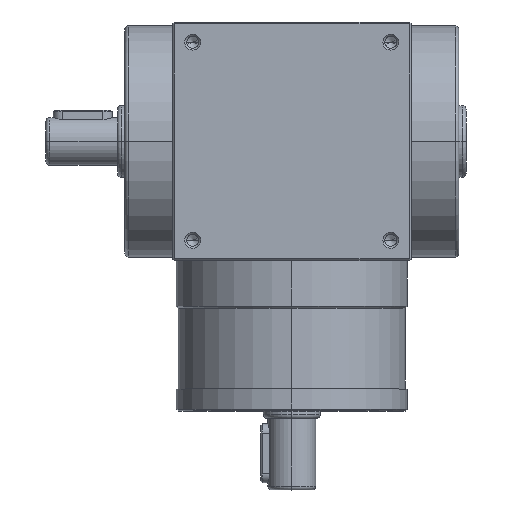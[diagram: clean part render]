
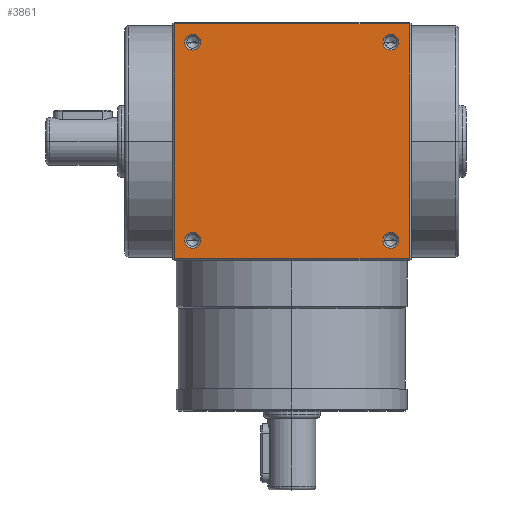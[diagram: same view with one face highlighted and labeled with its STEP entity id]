
A CAD part, top view. The second image highlights one B-rep face of the part: STEP entity #3861.
In plain terms, the highlighted planar face has unit normal (0, 0, 1).
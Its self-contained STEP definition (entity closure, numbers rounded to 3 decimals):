
#70 = EDGE_CURVE ( 'NONE', #9205, #8927, #5517, .T. ) ;
#170 = VERTEX_POINT ( 'NONE', #3588 ) ;
#243 = VERTEX_POINT ( 'NONE', #2750 ) ;
#320 = DIRECTION ( 'NONE',  ( 1., 0., 0. ) ) ;
#416 = EDGE_CURVE ( 'NONE', #1920, #170, #5765, .T. ) ;
#423 = VERTEX_POINT ( 'NONE', #5605 ) ;
#472 = CARTESIAN_POINT ( 'NONE',  ( -24.85, -27., 32.5 ) ) ;
#511 = EDGE_CURVE ( 'NONE', #8994, #7284, #6360, .T. ) ;
#524 = AXIS2_PLACEMENT_3D ( 'NONE', #7259, #5695, #2656 ) ;
#547 = VECTOR ( 'NONE', #3242, 1000. ) ;
#557 = ORIENTED_EDGE ( 'NONE', *, *, #6041, .T. ) ;
#592 = EDGE_CURVE ( 'NONE', #243, #1901, #6610, .T. ) ;
#648 = CIRCLE ( 'NONE', #4540, 2.15 ) ;
#657 = DIRECTION ( 'NONE',  ( -1., 0., 0. ) ) ;
#690 = CARTESIAN_POINT ( 'NONE',  ( 29.15, -27., 32.5 ) ) ;
#732 = DIRECTION ( 'NONE',  ( -1., 0., 0. ) ) ;
#1031 = CARTESIAN_POINT ( 'NONE',  ( 27., -27., 32.5 ) ) ;
#1289 = LINE ( 'NONE', #7314, #5525 ) ;
#1372 = CARTESIAN_POINT ( 'NONE',  ( 32., 0., 32.5 ) ) ;
#1592 = CARTESIAN_POINT ( 'NONE',  ( 27., -27., 32.5 ) ) ;
#1680 = ORIENTED_EDGE ( 'NONE', *, *, #3703, .T. ) ;
#1703 = EDGE_LOOP ( 'NONE', ( #5528, #557 ) ) ;
#1741 = AXIS2_PLACEMENT_3D ( 'NONE', #5290, #3740, #657 ) ;
#1811 = CARTESIAN_POINT ( 'NONE',  ( -32., 32., 32.5 ) ) ;
#1901 = VERTEX_POINT ( 'NONE', #7237 ) ;
#1920 = VERTEX_POINT ( 'NONE', #1811 ) ;
#2061 = DIRECTION ( 'NONE',  ( 0., 0., -1. ) ) ;
#2134 = EDGE_CURVE ( 'NONE', #6889, #423, #9056, .T. ) ;
#2182 = ORIENTED_EDGE ( 'NONE', *, *, #416, .T. ) ;
#2249 = FACE_BOUND ( 'NONE', #7046, .T. ) ;
#2285 = EDGE_CURVE ( 'NONE', #423, #6889, #648, .T. ) ;
#2297 = DIRECTION ( 'NONE',  ( 0., 0., -1. ) ) ;
#2308 = LINE ( 'NONE', #6397, #4145 ) ;
#2407 = DIRECTION ( 'NONE',  ( 0., 0., -1. ) ) ;
#2408 = VERTEX_POINT ( 'NONE', #5416 ) ;
#2593 = AXIS2_PLACEMENT_3D ( 'NONE', #1031, #4134, #9537 ) ;
#2656 = DIRECTION ( 'NONE',  ( -1., 0., 0. ) ) ;
#2750 = CARTESIAN_POINT ( 'NONE',  ( -29.15, 27., 32.5 ) ) ;
#2817 = VERTEX_POINT ( 'NONE', #5369 ) ;
#2836 = DIRECTION ( 'NONE',  ( -1., 0., 0. ) ) ;
#3077 = AXIS2_PLACEMENT_3D ( 'NONE', #5469, #3998, #9426 ) ;
#3156 = ORIENTED_EDGE ( 'NONE', *, *, #2285, .T. ) ;
#3174 = DIRECTION ( 'NONE',  ( 0., 0., -1. ) ) ;
#3242 = DIRECTION ( 'NONE',  ( 0., -1., 0. ) ) ;
#3324 = DIRECTION ( 'NONE',  ( -1., 0., 0. ) ) ;
#3465 = VECTOR ( 'NONE', #6097, 1000. ) ;
#3588 = CARTESIAN_POINT ( 'NONE',  ( -32., -32., 32.5 ) ) ;
#3703 = EDGE_CURVE ( 'NONE', #170, #8994, #1289, .T. ) ;
#3726 = EDGE_LOOP ( 'NONE', ( #7726, #3156 ) ) ;
#3740 = DIRECTION ( 'NONE',  ( 0., 0., -1. ) ) ;
#3861 = ADVANCED_FACE ( 'NONE', ( #2249, #5366, #5247, #8160, #10006 ), #9803, .F. ) ;
#3982 = AXIS2_PLACEMENT_3D ( 'NONE', #1592, #2297, #732 ) ;
#3998 = DIRECTION ( 'NONE',  ( 0., 0., -1. ) ) ;
#4063 = CIRCLE ( 'NONE', #2593, 2.15 ) ;
#4104 = EDGE_CURVE ( 'NONE', #1901, #243, #6914, .T. ) ;
#4134 = DIRECTION ( 'NONE',  ( 0., 0., -1. ) ) ;
#4145 = VECTOR ( 'NONE', #3324, 1000. ) ;
#4504 = AXIS2_PLACEMENT_3D ( 'NONE', #5905, #2061, #2836 ) ;
#4540 = AXIS2_PLACEMENT_3D ( 'NONE', #7010, #5450, #10100 ) ;
#4645 = CIRCLE ( 'NONE', #1741, 2.15 ) ;
#5247 = FACE_BOUND ( 'NONE', #1703, .T. ) ;
#5290 = CARTESIAN_POINT ( 'NONE',  ( 27., 27., 32.5 ) ) ;
#5366 = FACE_BOUND ( 'NONE', #3726, .T. ) ;
#5369 = CARTESIAN_POINT ( 'NONE',  ( 29.15, 27., 32.5 ) ) ;
#5416 = CARTESIAN_POINT ( 'NONE',  ( 24.85, 27., 32.5 ) ) ;
#5436 = CIRCLE ( 'NONE', #9608, 2.15 ) ;
#5450 = DIRECTION ( 'NONE',  ( 0., 0., -1. ) ) ;
#5469 = CARTESIAN_POINT ( 'NONE',  ( -27., 27., 32.5 ) ) ;
#5492 = DIRECTION ( 'NONE',  ( -1., 0., 0. ) ) ;
#5517 = CIRCLE ( 'NONE', #3982, 2.15 ) ;
#5525 = VECTOR ( 'NONE', #320, 1000. ) ;
#5528 = ORIENTED_EDGE ( 'NONE', *, *, #6367, .T. ) ;
#5555 = CARTESIAN_POINT ( 'NONE',  ( -27., 27., 32.5 ) ) ;
#5605 = CARTESIAN_POINT ( 'NONE',  ( -29.15, -27., 32.5 ) ) ;
#5695 = DIRECTION ( 'NONE',  ( 0., 0., -1. ) ) ;
#5765 = LINE ( 'NONE', #6415, #547 ) ;
#5905 = CARTESIAN_POINT ( 'NONE',  ( 0., 0., 32.5 ) ) ;
#5983 = EDGE_CURVE ( 'NONE', #7284, #1920, #2308, .T. ) ;
#6041 = EDGE_CURVE ( 'NONE', #2408, #2817, #5436, .T. ) ;
#6097 = DIRECTION ( 'NONE',  ( 0., 1., 0. ) ) ;
#6247 = CARTESIAN_POINT ( 'NONE',  ( 32., -32., 32.5 ) ) ;
#6360 = LINE ( 'NONE', #1372, #3465 ) ;
#6367 = EDGE_CURVE ( 'NONE', #2817, #2408, #4645, .T. ) ;
#6397 = CARTESIAN_POINT ( 'NONE',  ( 0., 32., 32.5 ) ) ;
#6415 = CARTESIAN_POINT ( 'NONE',  ( -32., 0., 32.5 ) ) ;
#6546 = EDGE_CURVE ( 'NONE', #8927, #9205, #4063, .T. ) ;
#6610 = CIRCLE ( 'NONE', #3077, 2.15 ) ;
#6889 = VERTEX_POINT ( 'NONE', #472 ) ;
#6914 = CIRCLE ( 'NONE', #8719, 2.15 ) ;
#7010 = CARTESIAN_POINT ( 'NONE',  ( -27., -27., 32.5 ) ) ;
#7046 = EDGE_LOOP ( 'NONE', ( #10048, #9955 ) ) ;
#7054 = CARTESIAN_POINT ( 'NONE',  ( 27., 27., 32.5 ) ) ;
#7237 = CARTESIAN_POINT ( 'NONE',  ( -24.85, 27., 32.5 ) ) ;
#7247 = CARTESIAN_POINT ( 'NONE',  ( 32., 32., 32.5 ) ) ;
#7259 = CARTESIAN_POINT ( 'NONE',  ( -27., -27., 32.5 ) ) ;
#7284 = VERTEX_POINT ( 'NONE', #7247 ) ;
#7314 = CARTESIAN_POINT ( 'NONE',  ( 0., -32., 32.5 ) ) ;
#7628 = EDGE_LOOP ( 'NONE', ( #2182, #1680, #9877, #8504 ) ) ;
#7726 = ORIENTED_EDGE ( 'NONE', *, *, #2134, .T. ) ;
#7813 = DIRECTION ( 'NONE',  ( -1., 0., 0. ) ) ;
#8083 = ORIENTED_EDGE ( 'NONE', *, *, #592, .T. ) ;
#8160 = FACE_BOUND ( 'NONE', #9090, .T. ) ;
#8504 = ORIENTED_EDGE ( 'NONE', *, *, #5983, .T. ) ;
#8719 = AXIS2_PLACEMENT_3D ( 'NONE', #5555, #3174, #5492 ) ;
#8927 = VERTEX_POINT ( 'NONE', #690 ) ;
#8994 = VERTEX_POINT ( 'NONE', #6247 ) ;
#9056 = CIRCLE ( 'NONE', #524, 2.15 ) ;
#9090 = EDGE_LOOP ( 'NONE', ( #9751, #8083 ) ) ;
#9205 = VERTEX_POINT ( 'NONE', #9683 ) ;
#9426 = DIRECTION ( 'NONE',  ( -1., 0., 0. ) ) ;
#9537 = DIRECTION ( 'NONE',  ( -1., 0., 0. ) ) ;
#9608 = AXIS2_PLACEMENT_3D ( 'NONE', #7054, #2407, #7813 ) ;
#9683 = CARTESIAN_POINT ( 'NONE',  ( 24.85, -27., 32.5 ) ) ;
#9751 = ORIENTED_EDGE ( 'NONE', *, *, #4104, .T. ) ;
#9803 = PLANE ( 'NONE',  #4504 ) ;
#9877 = ORIENTED_EDGE ( 'NONE', *, *, #511, .T. ) ;
#9955 = ORIENTED_EDGE ( 'NONE', *, *, #70, .T. ) ;
#10006 = FACE_OUTER_BOUND ( 'NONE', #7628, .T. ) ;
#10048 = ORIENTED_EDGE ( 'NONE', *, *, #6546, .T. ) ;
#10100 = DIRECTION ( 'NONE',  ( -1., 0., 0. ) ) ;
